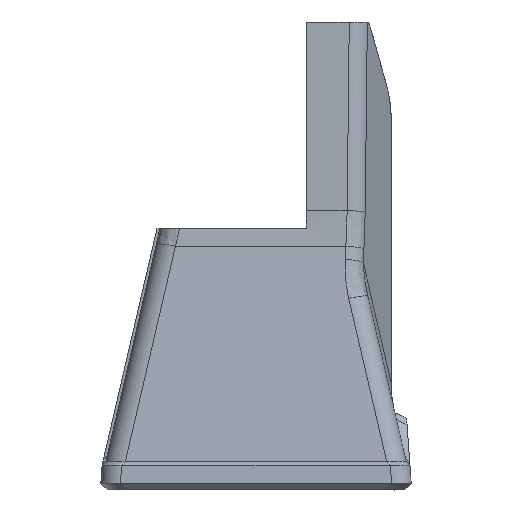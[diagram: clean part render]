
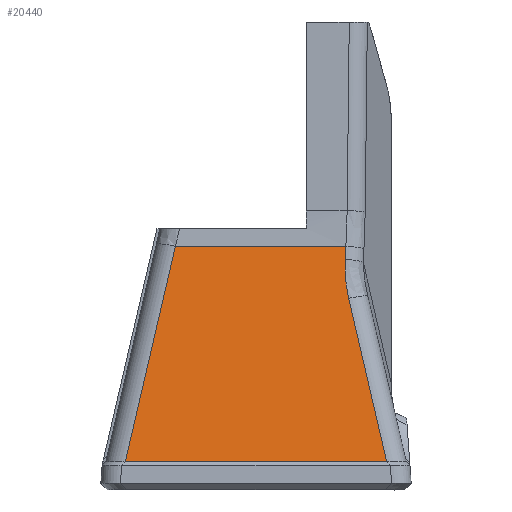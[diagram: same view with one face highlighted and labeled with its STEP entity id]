
A CAD part, left-side view. The second image highlights one B-rep face of the part: STEP entity #20440.
In plain terms, the highlighted planar face has unit normal (-0.991, 0, 0.135).
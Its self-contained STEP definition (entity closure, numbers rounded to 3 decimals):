
#7405=DIRECTION('',(-0.131,-0.224,-0.966));
#7406=VECTOR('',#7405,25.926);
#7407=CARTESIAN_POINT('',(-125.149,-1.683,
6.87));
#7408=LINE('24315',#7407,#7406);
#7409=CARTESIAN_POINT('',(-128.552,32.502,
-18.166));
#7410=CARTESIAN_POINT('',(-128.552,30.821,
-18.166));
#7411=CARTESIAN_POINT('',(-128.552,27.469,
-18.166));
#7412=CARTESIAN_POINT('',(-128.552,21.631,
-18.166));
#7413=CARTESIAN_POINT('',(-128.552,14.99,
-18.166));
#7414=CARTESIAN_POINT('',(-128.552,7.531,
-18.166));
#7415=CARTESIAN_POINT('',(-128.552,0.049,
-18.166));
#7416=CARTESIAN_POINT('',(-128.552,-4.972,
-18.166));
#7417=CARTESIAN_POINT('',(-128.552,-7.494,
-18.166));
#7419=DIRECTION('',(-0.131,0.224,-0.966));
#7420=VECTOR('',#7419,34.173);
#7421=CARTESIAN_POINT('',(-124.067,24.843,14.834));
#7422=LINE('24335',#7421,#7420);
#7423=DIRECTION('',(-0.134,0.057,-0.989));
#7424=VECTOR('',#7423,2.02);
#7425=CARTESIAN_POINT('',(-124.067,-1.251,
14.834));
#7426=LINE('24318',#7425,#7424);
#7427=CARTESIAN_POINT('',(-124.339,-1.137,
12.836));
#7428=CARTESIAN_POINT('',(-124.359,-1.129,
12.687));
#7429=CARTESIAN_POINT('',(-124.398,-1.116,
12.399));
#7430=CARTESIAN_POINT('',(-124.452,-1.107,
12.002));
#7431=CARTESIAN_POINT('',(-124.505,-1.106,
11.613));
#7432=CARTESIAN_POINT('',(-124.556,-1.113,
11.234));
#7433=CARTESIAN_POINT('',(-124.607,-1.126,
10.858));
#7434=CARTESIAN_POINT('',(-124.659,-1.147,
10.482));
#7435=CARTESIAN_POINT('',(-124.71,-1.174,
10.106));
#7436=CARTESIAN_POINT('',(-124.761,-1.208,
9.732));
#7437=CARTESIAN_POINT('',(-124.812,-1.249,
9.351));
#7438=CARTESIAN_POINT('',(-124.867,-1.299,
8.949));
#7439=CARTESIAN_POINT('',(-124.927,-1.363,
8.508));
#7440=CARTESIAN_POINT('',(-124.993,-1.445,
8.019));
#7441=CARTESIAN_POINT('',(-125.067,-1.548,
7.477));
#7442=CARTESIAN_POINT('',(-125.121,-1.634,
7.078));
#7443=CARTESIAN_POINT('',(-125.149,-1.683,
6.87));
#8370=DIRECTION('',(0.,-1.,0.));
#8371=VECTOR('',#8370,26.094);
#8372=CARTESIAN_POINT('',(-124.067,24.843,14.834));
#8373=LINE('24333',#8372,#8371);
#9766=CARTESIAN_POINT('',(-125.149,-1.683,
6.87));
#9767=CARTESIAN_POINT('',(-128.552,-7.494,
-18.166));
#9768=VERTEX_POINT('',#9766);
#9769=VERTEX_POINT('',#9767);
#9770=VERTEX_POINT('',#7427);
#9772=CARTESIAN_POINT('',(-124.067,-1.251,
14.834));
#9773=VERTEX_POINT('',#9772);
#9776=VERTEX_POINT('',#7409);
#9779=CARTESIAN_POINT('',(-124.067,24.843,14.834));
#9780=VERTEX_POINT('',#9779);
#20422=CARTESIAN_POINT('',(-129.,37.503,-21.466));
#20423=DIRECTION('',(-0.991,0.,0.135));
#20424=DIRECTION('',(0.135,0.,0.991));
#20425=AXIS2_PLACEMENT_3D('',#20422,#20423,#20424);
#20426=PLANE('23626',#20425);
#20428=ORIENTED_EDGE('24315',*,*,#20427,.T.);
#20430=ORIENTED_EDGE('24323',*,*,#20429,.F.);
#20432=ORIENTED_EDGE('24335',*,*,#20431,.F.);
#20434=ORIENTED_EDGE('24333',*,*,#20433,.T.);
#20435=ORIENTED_EDGE('24318',*,*,#20413,.T.);
#20437=ORIENTED_EDGE('24316',*,*,#20436,.T.);
#20438=EDGE_LOOP('23626',(#20428,#20430,#20432,#20434,#20435,#20437));
#20439=FACE_OUTER_BOUND('23626',#20438,.F.);
#7418=B_SPLINE_CURVE_WITH_KNOTS('24323',3,(#7409,#7410,#7411,#7412,#7413,#7414,
#7415,#7416,#7417),.UNSPECIFIED.,.F.,.F.,(4,1,1,1,1,1,4),(0.,0.125,0.25,
0.438,0.625,0.813,1.),.UNSPECIFIED.);
#7444=B_SPLINE_CURVE_WITH_KNOTS('24316',3,(#7427,#7428,#7429,#7430,#7431,#7432,
#7433,#7434,#7435,#7436,#7437,#7438,#7439,#7440,#7441,#7442,#7443),
.UNSPECIFIED.,.F.,.F.,(4,1,1,1,1,1,1,1,1,1,1,1,1,1,4),(0.,0.071,
0.143,0.214,0.286,0.357,
0.429,0.5,0.571,0.643,0.714,
0.786,0.857,0.929,1.),.UNSPECIFIED.);
#20413=EDGE_CURVE('24318',#9773,#9770,#7426,.T.);
#20427=EDGE_CURVE('24315',#9768,#9769,#7408,.T.);
#20429=EDGE_CURVE('24323',#9776,#9769,#7418,.T.);
#20431=EDGE_CURVE('24335',#9780,#9776,#7422,.T.);
#20433=EDGE_CURVE('24333',#9780,#9773,#8373,.T.);
#20436=EDGE_CURVE('24316',#9770,#9768,#7444,.T.);
#20440=ADVANCED_FACE('23626',(#20439),#20426,.T.);
